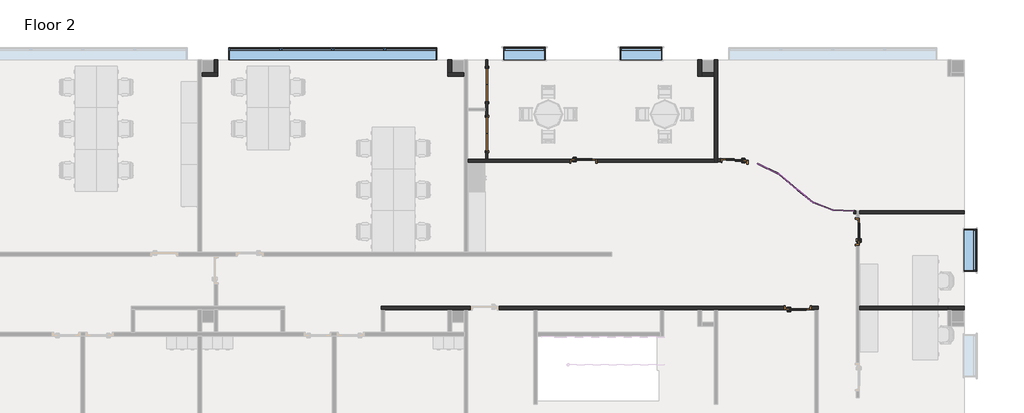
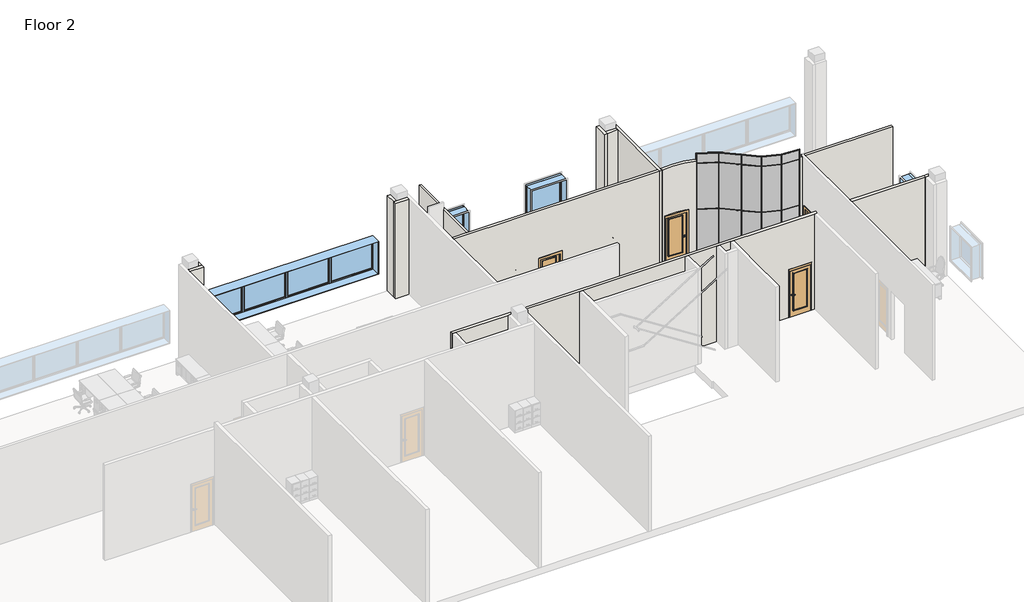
# One storey, part 4 of 6: 41 members, 15 plates, 15 walls, 6 doors, 4 windows.
"""IFC4 building model written with IfcOpenShell, lengths in millimetres."""

from ifc_helpers import new_model, si_unit, point, frame, frame_2d, origin, place, context, project, spatial, polyline, circle_curve, trimmed, segment, composite_curve, outline, extrude, faceted_brep, transform, mapped, element, save
from ifc_brep_helpers import plane_surface, cylinder_surface, revolved_surface, advanced_brep
from components import door_f69827bf, door_4cfbdd5f, door_b5f71497, door_dac99271, member_834e91f0, member_a9d6c361, member_b6f680d5, member_ea1833a9, member_997af995, member_99ddd2ca, member_efb85692, member_f42e476a, member_c703cf53, member_8995069b, member_6a737cc0, member_4057df82, member_b5c0ee63, member_2ca0dabc, member_3a403b9d, member_f4e4bb89, system_panel_glazed_970fcf6f, system_panel_glazed_1b99a4e4, system_panel_glazed_e012e687, system_panel_glazed_c5ee2139, system_panel_glazed_4739128b, system_panel_glazed_f263d929, system_panel_glazed_9a7f91f8, system_panel_glazed_b32ab771, system_panel_glazed_0122b756, window_casement_multi_sash_horizontal_25_x_5ft_0e5d08e3, window_45f0c9e0

model = new_model("IFC4")

# Units and contexts
model_context = context("Model", 3, world=origin())
ifc_project = project(units=[si_unit("LENGTHUNIT", "METRE", prefix="MILLI")], contexts=[model_context])

# Site, building, storey
site = spatial("IfcSite", under=ifc_project)
building = spatial("IfcBuilding", under=site)
storey = spatial("IfcBuildingStorey", under=building, Name="Floor 2", Elevation=5486.4)

# Doors
placement = place(None, origin())
door_shape = door_f69827bf(model_context)
element("IfcDoor", 1, ObjectType="Door-Double-Flush_Panel : 48\" x 84\"", at=placement, inside=storey, context=model_context, shape_type="MappedRepresentation", body=[
    mapped(door_shape, transform((44045.2192024, 56452.299389, 5486.4), x_axis=(0.0, -1.0, 0.0), y_axis=(1.0, 0.0, 0.0), z_axis=(0.0, 0.0, 1.0))),
])
element("IfcDoor", 2, ObjectType="Door-Double-Flush_Panel : 48\" x 84\"", at=placement, inside=storey, context=model_context, shape_type="MappedRepresentation", body=[
    mapped(door_shape, transform((44045.2192024, 54660.011889, 5486.4), x_axis=(0.0, -1.0, 0.0), y_axis=(1.0, 0.0, 0.0), z_axis=(0.0, 0.0, 1.0))),
])
door_2_shape = door_4cfbdd5f(model_context)
element("IfcDoor", 3, ObjectType="Door-Passage-Single-Full_Lite : 36\" x 84\"", at=placement, inside=storey, context=model_context, shape_type="MappedRepresentation", body=[
    mapped(door_2_shape, transform((55424.4192024, 48297.311889, 5486.4), x_axis=(1.0, 0.0, 0.0), y_axis=(0.0, 1.0, 0.0), z_axis=(0.0, 0.0, 1.0))),
])
door_3_shape = door_b5f71497(model_context)
element("IfcDoor", 4, ObjectType="Door-Passage-Single-Full_Lite : 36\" x 84\"", at=placement, inside=storey, context=model_context, shape_type="MappedRepresentation", body=[
    mapped(door_3_shape, transform((53107.2341239, 53660.5521638, 5486.4), x_axis=(-0.9977672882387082, 0.06678651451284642, 0.0), y_axis=(-0.06678651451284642, -0.9977672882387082, 0.0), z_axis=(0.0, 0.0, 1.0))),
])
element("IfcDoor", 5, ObjectType="Door-Passage-Single-Full_Lite : 36\" x 84\"", at=placement, inside=storey, context=model_context, shape_type="MappedRepresentation", body=[
    mapped(door_3_shape, transform((57608.8192024, 51084.961889, 5486.4), x_axis=(0.0, 1.0, 0.0), y_axis=(-1.0, 0.0, 0.0), z_axis=(0.0, 0.0, 1.0))),
])
door_4_shape = door_dac99271(model_context)
element("IfcDoor", 6, ObjectType="Door-Passage-Single-Full_Lite : 36\" x 84\"", at=placement, inside=storey, context=model_context, shape_type="MappedRepresentation", body=[
    mapped(door_4_shape, transform((47582.1692024, 53675.761889, 5486.4), x_axis=(1.0, 0.0, 0.0), y_axis=(0.0, 1.0, 0.0), z_axis=(0.0, 0.0, 1.0))),
])

# Members
member_shape = member_834e91f0(model_context)
element("IfcMember", 7, ObjectType="Rectangular Mullion1 : 1\" Square", at=placement, inside=storey, context=model_context, shape_type="MappedRepresentation", body=[
    mapped(member_shape, transform((55370.0845568, 52611.7453813, 10210.8), x_axis=(0.0, 0.0, 1.0), y_axis=(-0.6484934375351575, -0.7612202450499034, 0.0), z_axis=(0.7612202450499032, -0.6484934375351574, 0.0))),
])
member_2_shape = member_a9d6c361(model_context)
element("IfcMember", 8, ObjectType="Rectangular Mullion1 : 1\" Square", at=placement, inside=storey, context=model_context, shape_type="MappedRepresentation", body=[
    mapped(member_2_shape, transform((54710.7323367, 53173.4561221, 10210.8), x_axis=(0.0, 0.0, 1.0), y_axis=(-0.43160178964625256, -0.9020642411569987, 0.0), z_axis=(0.9020642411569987, -0.43160178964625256, 0.0))),
])
element("IfcMember", 9, ObjectType="Rectangular Mullion1 : 1\" Square", at=placement, inside=storey, context=model_context, shape_type="MappedRepresentation", body=[
    mapped(member_shape, transform((53929.3841475, 53547.3000917, 5486.4), x_axis=(0.0, 0.0, -1.0), y_axis=(-0.43160178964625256, -0.9020642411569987, 0.0), z_axis=(-0.9020642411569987, 0.43160178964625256, 0.0))),
])
element("IfcMember", 10, ObjectType="Rectangular Mullion1 : 1\" Square", at=placement, inside=storey, context=model_context, shape_type="MappedRepresentation", body=[
    mapped(member_2_shape, transform((54710.7323367, 53173.4561221, 5486.4), x_axis=(0.0, 0.0, -1.0), y_axis=(-0.6484934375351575, -0.7612202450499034, 0.0), z_axis=(-0.7612202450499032, 0.6484934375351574, 0.0))),
])
member_3_shape = member_b6f680d5(model_context)
element("IfcMember", 11, ObjectType="Rectangular Mullion1 : 1\" Square", at=placement, inside=storey, context=model_context, shape_type="MappedRepresentation", body=[
    mapped(member_3_shape, transform((54710.7323367, 53173.4561221, 7620.0), x_axis=(0.0, 0.0, 1.0), y_axis=(-0.43160178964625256, -0.9020642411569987, 0.0), z_axis=(0.9020642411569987, -0.43160178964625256, 0.0))),
])
member_4_shape = member_ea1833a9(model_context)
element("IfcMember", 12, ObjectType="Rectangular Mullion1 : 1\" Square", at=placement, inside=storey, context=model_context, shape_type="MappedRepresentation", body=[
    mapped(member_4_shape, transform((55350.7495626, 52628.2171146, 7620.0), x_axis=(0.0, 0.0, 1.0), y_axis=(-0.6484934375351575, -0.7612202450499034, 0.0), z_axis=(0.7612202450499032, -0.6484934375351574, 0.0))),
])
member_5_shape = member_997af995(model_context)
element("IfcMember", 13, ObjectType="Rectangular Mullion1 : 1\" Square", at=placement, inside=storey, context=model_context, shape_type="MappedRepresentation", body=[
    mapped(member_5_shape, transform((54710.7323367, 53173.4561221, 5511.8), x_axis=(0.8386830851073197, -0.5446197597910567, 0.0), y_axis=(-0.5446197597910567, -0.8386830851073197, 0.0), z_axis=(0.0, 0.0, -1.0))),
])
element("IfcMember", 14, ObjectType="Rectangular Mullion1 : 1\" Square", at=placement, inside=storey, context=model_context, shape_type="MappedRepresentation", body=[
    mapped(member_5_shape, transform((55973.7447178, 52125.501763, 5511.8), x_axis=(0.867376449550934, -0.4976525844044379, 0.0), y_axis=(-0.4976525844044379, -0.867376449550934, 0.0), z_axis=(0.0, 0.0, -1.0))),
])
element("IfcMember", 15, ObjectType="Rectangular Mullion1 : 1\" Square", at=placement, inside=storey, context=model_context, shape_type="MappedRepresentation", body=[
    mapped(member_5_shape, transform((56698.1784145, 51849.7586549, 5511.8), x_axis=(0.9787526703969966, -0.20504441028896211, 0.0), y_axis=(-0.20504441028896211, -0.9787526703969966, 0.0), z_axis=(0.0, 0.0, -1.0))),
])
member_6_shape = member_99ddd2ca(model_context)
element("IfcMember", 16, ObjectType="Rectangular Mullion1 : 1\" Square", at=placement, inside=storey, context=model_context, shape_type="MappedRepresentation", body=[
    mapped(member_6_shape, transform((54710.7323367, 53173.4561221, 7632.7), x_axis=(0.8386830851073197, -0.5446197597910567, 0.0), y_axis=(-0.5446197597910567, -0.8386830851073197, 0.0), z_axis=(0.0, 0.0, -1.0))),
])
element("IfcMember", 17, ObjectType="Rectangular Mullion1 : 1\" Square", at=placement, inside=storey, context=model_context, shape_type="MappedRepresentation", body=[
    mapped(member_6_shape, transform((55973.7447178, 52125.501763, 7632.7), x_axis=(0.867376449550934, -0.4976525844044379, 0.0), y_axis=(-0.4976525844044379, -0.867376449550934, 0.0), z_axis=(0.0, 0.0, -1.0))),
])
element("IfcMember", 18, ObjectType="Rectangular Mullion1 : 1\" Square", at=placement, inside=storey, context=model_context, shape_type="MappedRepresentation", body=[
    mapped(member_6_shape, transform((56698.1784145, 51849.7586549, 7632.7), x_axis=(0.9787526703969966, -0.20504441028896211, 0.0), y_axis=(-0.20504441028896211, -0.9787526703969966, 0.0), z_axis=(0.0, 0.0, -1.0))),
])
member_7_shape = member_efb85692(model_context)
element("IfcMember", 19, ObjectType="Rectangular Mullion1 : 1\" Square", at=placement, inside=storey, context=model_context, shape_type="MappedRepresentation", body=[
    mapped(member_7_shape, transform((54710.7323367, 53173.4561221, 9766.3), x_axis=(0.8386830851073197, -0.5446197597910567, 0.0), y_axis=(-0.5446197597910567, -0.8386830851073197, 0.0), z_axis=(0.0, 0.0, -1.0))),
])
element("IfcMember", 20, ObjectType="Rectangular Mullion1 : 1\" Square", at=placement, inside=storey, context=model_context, shape_type="MappedRepresentation", body=[
    mapped(member_7_shape, transform((55973.7447178, 52125.501763, 9766.3), x_axis=(0.867376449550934, -0.4976525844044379, 0.0), y_axis=(-0.4976525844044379, -0.867376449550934, 0.0), z_axis=(0.0, 0.0, -1.0))),
])
element("IfcMember", 21, ObjectType="Rectangular Mullion1 : 1\" Square", at=placement, inside=storey, context=model_context, shape_type="MappedRepresentation", body=[
    mapped(member_7_shape, transform((56698.1784145, 51849.7586549, 9766.3), x_axis=(0.9787526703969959, -0.20504441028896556, 0.0), y_axis=(-0.20504441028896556, -0.9787526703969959, 0.0), z_axis=(0.0, 0.0, -1.0))),
])
element("IfcMember", 22, ObjectType="Rectangular Mullion1 : 1\" Square", at=placement, inside=storey, context=model_context, shape_type="MappedRepresentation", body=[
    mapped(member_3_shape, transform((54710.7323367, 53173.4561221, 9753.6), x_axis=(0.0, 0.0, 1.0), y_axis=(-0.43160178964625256, -0.9020642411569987, 0.0), z_axis=(0.9020642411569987, -0.43160178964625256, 0.0))),
])
element("IfcMember", 23, ObjectType="Rectangular Mullion1 : 1\" Square", at=placement, inside=storey, context=model_context, shape_type="MappedRepresentation", body=[
    mapped(member_4_shape, transform((55350.7495626, 52628.2171146, 9753.6), x_axis=(0.0, 0.0, 1.0), y_axis=(-0.6484934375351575, -0.7612202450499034, 0.0), z_axis=(0.7612202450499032, -0.6484934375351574, 0.0))),
])
member_8_shape = member_f42e476a(model_context)
element("IfcMember", 24, ObjectType="Rectangular Mullion1 : 1\" Square", at=placement, inside=storey, context=model_context, shape_type="MappedRepresentation", body=[
    mapped(member_8_shape, transform((57472.373613, 51811.5455547, 10210.8), x_axis=(0.0, 0.0, 1.0), y_axis=(-0.049298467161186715, -0.9987840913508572, 0.0), z_axis=(0.9987840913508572, -0.049298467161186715, 0.0))),
])
member_9_shape = member_c703cf53(model_context)
element("IfcMember", 25, ObjectType="Rectangular Mullion1 : 1\" Square", at=placement, inside=storey, context=model_context, shape_type="MappedRepresentation", body=[
    mapped(member_9_shape, transform((55973.7447178, 52125.501763, 10210.8), x_axis=(0.0, 0.0, 1.0), y_axis=(-0.6272996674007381, -0.7787779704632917, 0.0), z_axis=(0.7787779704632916, -0.627299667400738, 0.0))),
])
member_10_shape = member_8995069b(model_context)
element("IfcMember", 26, ObjectType="Rectangular Mullion1 : 1\" Square", at=placement, inside=storey, context=model_context, shape_type="MappedRepresentation", body=[
    mapped(member_10_shape, transform((56698.1784145, 51849.7586549, 10210.8), x_axis=(0.0, 0.0, 1.0), y_axis=(-0.3557343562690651, -0.9345871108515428, 0.0), z_axis=(0.9345871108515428, -0.3557343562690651, 0.0))),
])
element("IfcMember", 27, ObjectType="Rectangular Mullion1 : 1\" Square", at=placement, inside=storey, context=model_context, shape_type="MappedRepresentation", body=[
    mapped(member_8_shape, transform((55370.0845568, 52611.7453813, 5486.4), x_axis=(0.0, 0.0, -1.0), y_axis=(-0.6272996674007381, -0.7787779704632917, 0.0), z_axis=(-0.7787779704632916, 0.627299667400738, 0.0))),
])
element("IfcMember", 28, ObjectType="Rectangular Mullion1 : 1\" Square", at=placement, inside=storey, context=model_context, shape_type="MappedRepresentation", body=[
    mapped(member_10_shape, transform((55973.7447178, 52125.501763, 5486.4), x_axis=(0.0, 0.0, -1.0), y_axis=(-0.3557343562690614, -0.9345871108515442, 0.0), z_axis=(-0.9345871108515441, 0.35573435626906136, 0.0))),
])
element("IfcMember", 29, ObjectType="Rectangular Mullion1 : 1\" Square", at=placement, inside=storey, context=model_context, shape_type="MappedRepresentation", body=[
    mapped(member_9_shape, transform((56698.1784145, 51849.7586549, 5486.4), x_axis=(0.0, 0.0, -1.0), y_axis=(-0.049298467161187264, -0.9987840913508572, 0.0), z_axis=(-0.9987840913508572, 0.049298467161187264, 0.0))),
])
member_11_shape = member_6a737cc0(model_context)
element("IfcMember", 30, ObjectType="Rectangular Mullion1 : 1\" Square", at=placement, inside=storey, context=model_context, shape_type="MappedRepresentation", body=[
    mapped(member_11_shape, transform((55973.7447178, 52125.501763, 7620.0), x_axis=(0.0, 0.0, 1.0), y_axis=(-0.6272996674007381, -0.7787779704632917, 0.0), z_axis=(0.7787779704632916, -0.627299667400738, 0.0))),
])
member_12_shape = member_4057df82(model_context)
element("IfcMember", 31, ObjectType="Rectangular Mullion1 : 1\" Square", at=placement, inside=storey, context=model_context, shape_type="MappedRepresentation", body=[
    mapped(member_12_shape, transform((56698.1784145, 51849.7586549, 7620.0), x_axis=(0.0, 0.0, 1.0), y_axis=(-0.3557343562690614, -0.9345871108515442, 0.0), z_axis=(0.9345871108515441, -0.35573435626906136, 0.0))),
])
element("IfcMember", 32, ObjectType="Rectangular Mullion1 : 1\" Square", at=placement, inside=storey, context=model_context, shape_type="MappedRepresentation", body=[
    mapped(member_12_shape, transform((56698.1784145, 51849.7586549, 9753.6), x_axis=(0.0, 0.0, 1.0), y_axis=(-0.3557343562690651, -0.9345871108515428, 0.0), z_axis=(0.9345871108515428, -0.3557343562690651, 0.0))),
])
member_13_shape = member_b5c0ee63(model_context)
element("IfcMember", 33, ObjectType="Rectangular Mullion1 : 1\" Square", at=placement, inside=storey, context=model_context, shape_type="MappedRepresentation", body=[
    mapped(member_13_shape, transform((57447.0044971, 51812.7977357, 7620.0), x_axis=(0.0, 0.0, 1.0), y_axis=(-0.049298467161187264, -0.9987840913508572, 0.0), z_axis=(0.9987840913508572, -0.049298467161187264, 0.0))),
])
element("IfcMember", 34, ObjectType="Rectangular Mullion1 : 1\" Square", at=placement, inside=storey, context=model_context, shape_type="MappedRepresentation", body=[
    mapped(member_11_shape, transform((55973.7447178, 52125.501763, 9753.6), x_axis=(0.0, 0.0, 1.0), y_axis=(-0.6272996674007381, -0.7787779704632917, 0.0), z_axis=(0.7787779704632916, -0.627299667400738, 0.0))),
])
element("IfcMember", 35, ObjectType="Rectangular Mullion1 : 1\" Square", at=placement, inside=storey, context=model_context, shape_type="MappedRepresentation", body=[
    mapped(member_13_shape, transform((57447.0044971, 51812.7977357, 9753.6), x_axis=(0.0, 0.0, 1.0), y_axis=(-0.049298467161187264, -0.9987840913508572, 0.0), z_axis=(0.9987840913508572, -0.049298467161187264, 0.0))),
])
member_14_shape = member_2ca0dabc(model_context)
element("IfcMember", 36, ObjectType="Rectangular Mullion1 : 1\" Square", at=placement, inside=storey, context=model_context, shape_type="MappedRepresentation", body=[
    mapped(member_14_shape, transform((55370.0845568, 52611.7453813, 5511.8), x_axis=(0.7612202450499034, -0.6484934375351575, 0.0), y_axis=(-0.6484934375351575, -0.7612202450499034, 0.0), z_axis=(0.0, 0.0, -1.0))),
])
element("IfcMember", 37, ObjectType="Rectangular Mullion1 : 1\" Square", at=placement, inside=storey, context=model_context, shape_type="MappedRepresentation", body=[
    mapped(member_14_shape, transform((57472.373613, 51811.5455547, 5511.8), x_axis=(0.9987840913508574, -0.0492984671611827, 0.0), y_axis=(-0.0492984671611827, -0.9987840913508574, 0.0), z_axis=(0.0, 0.0, -1.0))),
])
member_15_shape = member_3a403b9d(model_context)
element("IfcMember", 38, ObjectType="Rectangular Mullion1 : 1\" Square", at=placement, inside=storey, context=model_context, shape_type="MappedRepresentation", body=[
    mapped(member_15_shape, transform((55370.0845568, 52611.7453813, 7620.0), x_axis=(0.7612202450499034, -0.6484934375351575, 0.0), y_axis=(-0.6484934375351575, -0.7612202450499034, 0.0), z_axis=(0.0, 0.0, -1.0))),
])
element("IfcMember", 39, ObjectType="Rectangular Mullion1 : 1\" Square", at=placement, inside=storey, context=model_context, shape_type="MappedRepresentation", body=[
    mapped(member_15_shape, transform((57472.373613, 51811.5455547, 7620.0), x_axis=(0.9987840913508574, -0.0492984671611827, 0.0), y_axis=(-0.0492984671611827, -0.9987840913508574, 0.0), z_axis=(0.0, 0.0, -1.0))),
])
member_16_shape = member_f4e4bb89(model_context)
element("IfcMember", 40, ObjectType="Rectangular Mullion1 : 1\" Square", at=placement, inside=storey, context=model_context, shape_type="MappedRepresentation", body=[
    mapped(member_16_shape, transform((53929.3841475, 53547.3000917, 10185.4), x_axis=(-0.9020642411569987, 0.43160178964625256, 0.0), y_axis=(-0.43160178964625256, -0.9020642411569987, 0.0), z_axis=(0.0, 0.0, 1.0))),
])
element("IfcMember", 41, ObjectType="Rectangular Mullion1 : 1\" Square", at=placement, inside=storey, context=model_context, shape_type="MappedRepresentation", body=[
    mapped(member_16_shape, transform((55370.0845568, 52611.7453813, 10185.4), x_axis=(-0.7787779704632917, 0.6272996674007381, 0.0), y_axis=(-0.6272996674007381, -0.7787779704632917, 0.0), z_axis=(0.0, 0.0, 1.0))),
])
element("IfcMember", 42, ObjectType="Rectangular Mullion1 : 1\" Square", at=placement, inside=storey, context=model_context, shape_type="MappedRepresentation", body=[
    mapped(member_14_shape, transform((53929.3841475, 53547.3000917, 7620.0), x_axis=(-0.9020642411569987, 0.43160178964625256, 0.0), y_axis=(-0.43160178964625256, -0.9020642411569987, 0.0), z_axis=(0.0, 0.0, 1.0))),
])
element("IfcMember", 43, ObjectType="Rectangular Mullion1 : 1\" Square", at=placement, inside=storey, context=model_context, shape_type="MappedRepresentation", body=[
    mapped(member_14_shape, transform((55370.0845568, 52611.7453813, 7620.0), x_axis=(-0.7787779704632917, 0.6272996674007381, 0.0), y_axis=(-0.6272996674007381, -0.7787779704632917, 0.0), z_axis=(0.0, 0.0, 1.0))),
])
element("IfcMember", 44, ObjectType="Rectangular Mullion1 : 1\" Square", at=placement, inside=storey, context=model_context, shape_type="MappedRepresentation", body=[
    mapped(member_16_shape, transform((55370.0845568, 52611.7453813, 9753.6), x_axis=(0.7612202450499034, -0.6484934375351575, 0.0), y_axis=(-0.6484934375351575, -0.7612202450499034, 0.0), z_axis=(0.0, 0.0, -1.0))),
])
element("IfcMember", 45, ObjectType="Rectangular Mullion1 : 1\" Square", at=placement, inside=storey, context=model_context, shape_type="MappedRepresentation", body=[
    mapped(member_16_shape, transform((57472.373613, 51811.5455547, 9753.6), x_axis=(0.9987840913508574, -0.049298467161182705, 0.0), y_axis=(-0.049298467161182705, -0.9987840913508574, 0.0), z_axis=(0.0, 0.0, -1.0))),
])
element("IfcMember", 46, ObjectType="Rectangular Mullion1 : 1\" Square", at=placement, inside=storey, context=model_context, shape_type="MappedRepresentation", body=[
    mapped(member_15_shape, transform((53929.3841475, 53547.3000917, 9753.6), x_axis=(-0.9020642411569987, 0.43160178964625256, 0.0), y_axis=(-0.43160178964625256, -0.9020642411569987, 0.0), z_axis=(0.0, 0.0, 1.0))),
])
element("IfcMember", 47, ObjectType="Rectangular Mullion1 : 1\" Square", at=placement, inside=storey, context=model_context, shape_type="MappedRepresentation", body=[
    mapped(member_15_shape, transform((55370.0845568, 52611.7453813, 9753.6), x_axis=(-0.7787779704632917, 0.6272996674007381, 0.0), y_axis=(-0.6272996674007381, -0.7787779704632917, 0.0), z_axis=(0.0, 0.0, 1.0))),
])

# Plates
system_panel_glazed_shape = system_panel_glazed_970fcf6f(model_context)
element("IfcPlate", 48, ObjectType="System Panel : Glazed", at=placement, inside=storey, context=model_context, shape_type="MappedRepresentation", body=[
    mapped(system_panel_glazed_shape, transform((54325.7863501, 53357.6374355, 5511.8), x_axis=(0.9020642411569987, -0.43160178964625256, 0.0), y_axis=(0.43160178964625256, 0.9020642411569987, 0.0), z_axis=(0.0, 0.0, 1.0))),
])
element("IfcPlate", 49, ObjectType="System Panel : Glazed", at=placement, inside=storey, context=model_context, shape_type="MappedRepresentation", body=[
    mapped(system_panel_glazed_shape, transform((55035.5746982, 52896.718685, 5511.8), x_axis=(0.7612202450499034, -0.6484934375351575, 0.0), y_axis=(0.6484934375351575, 0.7612202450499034, 0.0), z_axis=(0.0, 0.0, 1.0))),
])
system_panel_glazed_2_shape = system_panel_glazed_1b99a4e4(model_context)
element("IfcPlate", 50, ObjectType="System Panel : Glazed", at=placement, inside=storey, context=model_context, shape_type="MappedRepresentation", body=[
    mapped(system_panel_glazed_2_shape, transform((54325.7863501, 53357.6374355, 7632.7), x_axis=(0.9020642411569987, -0.43160178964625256, 0.0), y_axis=(0.43160178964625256, 0.9020642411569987, 0.0), z_axis=(0.0, 0.0, 1.0))),
])
element("IfcPlate", 51, ObjectType="System Panel : Glazed", at=placement, inside=storey, context=model_context, shape_type="MappedRepresentation", body=[
    mapped(system_panel_glazed_2_shape, transform((55035.5746982, 52896.718685, 7632.7), x_axis=(0.7612202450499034, -0.6484934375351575, 0.0), y_axis=(0.6484934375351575, 0.7612202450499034, 0.0), z_axis=(0.0, 0.0, 1.0))),
])
system_panel_glazed_3_shape = system_panel_glazed_e012e687(model_context)
element("IfcPlate", 52, ObjectType="System Panel : Glazed", at=placement, inside=storey, context=model_context, shape_type="MappedRepresentation", body=[
    mapped(system_panel_glazed_3_shape, transform((55676.8598774, 52364.6402193, 5511.8), x_axis=(0.7787779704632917, -0.6272996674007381, 0.0), y_axis=(0.6272996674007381, 0.7787779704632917, 0.0), z_axis=(0.0, 0.0, 1.0))),
])
element("IfcPlate", 53, ObjectType="System Panel : Glazed", at=placement, inside=storey, context=model_context, shape_type="MappedRepresentation", body=[
    mapped(system_panel_glazed_3_shape, transform((57078.9337348, 51830.96515, 5511.8), x_axis=(0.9987840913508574, -0.0492984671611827, 0.0), y_axis=(0.0492984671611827, 0.9987840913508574, 0.0), z_axis=(0.0, 0.0, 1.0))),
])
system_panel_glazed_4_shape = system_panel_glazed_c5ee2139(model_context)
element("IfcPlate", 54, ObjectType="System Panel : Glazed", at=placement, inside=storey, context=model_context, shape_type="MappedRepresentation", body=[
    mapped(system_panel_glazed_4_shape, transform((56335.9615662, 51987.6302089, 5511.8), x_axis=(0.9345871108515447, -0.35573435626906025, 0.0), y_axis=(0.35573435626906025, 0.9345871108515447, 0.0), z_axis=(0.0, 0.0, 1.0))),
])
system_panel_glazed_5_shape = system_panel_glazed_4739128b(model_context)
element("IfcPlate", 55, ObjectType="System Panel : Glazed", at=placement, inside=storey, context=model_context, shape_type="MappedRepresentation", body=[
    mapped(system_panel_glazed_5_shape, transform((55676.8598774, 52364.6402193, 7632.7), x_axis=(0.7787779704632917, -0.6272996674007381, 0.0), y_axis=(0.6272996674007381, 0.7787779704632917, 0.0), z_axis=(0.0, 0.0, 1.0))),
])
element("IfcPlate", 56, ObjectType="System Panel : Glazed", at=placement, inside=storey, context=model_context, shape_type="MappedRepresentation", body=[
    mapped(system_panel_glazed_5_shape, transform((57078.9337348, 51830.96515, 7632.7), x_axis=(0.9987840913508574, -0.0492984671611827, 0.0), y_axis=(0.0492984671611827, 0.9987840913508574, 0.0), z_axis=(0.0, 0.0, 1.0))),
])
system_panel_glazed_6_shape = system_panel_glazed_f263d929(model_context)
element("IfcPlate", 57, ObjectType="System Panel : Glazed", at=placement, inside=storey, context=model_context, shape_type="MappedRepresentation", body=[
    mapped(system_panel_glazed_6_shape, transform((56335.9615662, 51987.6302089, 7632.7), x_axis=(0.9345871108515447, -0.35573435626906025, 0.0), y_axis=(0.35573435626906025, 0.9345871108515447, 0.0), z_axis=(0.0, 0.0, 1.0))),
])
system_panel_glazed_7_shape = system_panel_glazed_9a7f91f8(model_context)
element("IfcPlate", 58, ObjectType="System Panel : Glazed", at=placement, inside=storey, context=model_context, shape_type="MappedRepresentation", body=[
    mapped(system_panel_glazed_7_shape, transform((54325.7863501, 53357.6374355, 9766.3), x_axis=(0.9020642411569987, -0.43160178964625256, 0.0), y_axis=(0.43160178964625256, 0.9020642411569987, 0.0), z_axis=(0.0, 0.0, 1.0))),
])
element("IfcPlate", 59, ObjectType="System Panel : Glazed", at=placement, inside=storey, context=model_context, shape_type="MappedRepresentation", body=[
    mapped(system_panel_glazed_7_shape, transform((55035.5746982, 52896.718685, 9766.3), x_axis=(0.7612202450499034, -0.6484934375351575, 0.0), y_axis=(0.6484934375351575, 0.7612202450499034, 0.0), z_axis=(0.0, 0.0, 1.0))),
])
system_panel_glazed_8_shape = system_panel_glazed_b32ab771(model_context)
element("IfcPlate", 60, ObjectType="System Panel : Glazed", at=placement, inside=storey, context=model_context, shape_type="MappedRepresentation", body=[
    mapped(system_panel_glazed_8_shape, transform((55676.8598774, 52364.6402193, 9766.3), x_axis=(0.7787779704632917, -0.6272996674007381, 0.0), y_axis=(0.6272996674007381, 0.7787779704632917, 0.0), z_axis=(0.0, 0.0, 1.0))),
])
element("IfcPlate", 61, ObjectType="System Panel : Glazed", at=placement, inside=storey, context=model_context, shape_type="MappedRepresentation", body=[
    mapped(system_panel_glazed_8_shape, transform((57078.9337348, 51830.96515, 9766.3), x_axis=(0.9987840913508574, -0.049298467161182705, 0.0), y_axis=(0.049298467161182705, 0.9987840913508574, 0.0), z_axis=(0.0, 0.0, 1.0))),
])
system_panel_glazed_9_shape = system_panel_glazed_0122b756(model_context)
element("IfcPlate", 62, ObjectType="System Panel : Glazed", at=placement, inside=storey, context=model_context, shape_type="MappedRepresentation", body=[
    mapped(system_panel_glazed_9_shape, transform((56335.9615662, 51987.6302089, 9766.3), x_axis=(0.9345871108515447, -0.35573435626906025, 0.0), y_axis=(0.35573435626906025, 0.9345871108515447, 0.0), z_axis=(0.0, 0.0, 1.0))),
])

# Walls
element("IfcWall", 63, ObjectType="Interior - 3 1/8\" Partition (1-hr)", at=placement, inside=storey, context=model_context, shape_type="Brep", body=[
    faceted_brep([(44084.9067024, 53744.024389, 9906.0), (44084.9067024, 53744.024389, 5486.4), (44084.9067024, 54050.411889, 5486.4), (44084.9067024, 54050.411889, 7620.0), (44084.9067024, 55269.611889, 7620.0), (44084.9067024, 55269.611889, 5486.4), (44084.9067024, 55842.699389, 5486.4), (44084.9067024, 55842.699389, 7620.0), (44084.9067024, 57061.899389, 7620.0), (44084.9067024, 57061.899389, 5486.4), (44084.9067024, 57366.699389, 5486.4), (44084.9067024, 57366.699389, 9906.0), (44005.5317024, 53744.024389, 5486.4), (44005.5317024, 53744.024389, 9906.0), (44005.5317024, 57366.699389, 9906.0), (44005.5317024, 57366.699389, 5486.4), (44005.5317024, 57061.899389, 5486.4), (44005.5317024, 57061.899389, 7620.0), (44005.5317024, 55842.699389, 7620.0), (44005.5317024, 55842.699389, 5486.4), (44005.5317024, 55595.843139, 5486.4), (44005.5317024, 55516.468139, 5486.4), (44005.5317024, 55269.611889, 5486.4), (44005.5317024, 55269.611889, 7620.0), (44005.5317024, 54050.411889, 7620.0), (44005.5317024, 54050.411889, 5486.4)], [[[0, 1, 2, 3, 4, 5, 6, 7, 8, 9, 10, 11]], [[12, 13, 14, 15, 16, 17, 18, 19, 20, 21, 22, 23, 24, 25]], [[1, 12, 25, 2]], [[15, 10, 9, 16]], [[19, 6, 5, 22, 21, 20]], [[1, 0, 13, 12]], [[11, 10, 15, 14]], [[0, 11, 14, 13]], [[18, 7, 6, 19]], [[7, 18, 17, 8]], [[8, 17, 16, 9]], [[24, 3, 2, 25]], [[3, 24, 23, 4]], [[4, 23, 22, 5]]]),
])
element("IfcWall", 64, ObjectType="Interior - 4 7/8\" Partition (1-hr)", at=placement, inside=storey, context=model_context, shape_type="Brep", body=[
    faceted_brep([(52489.1317024, 53620.199389, 5486.4), (52489.1317024, 53627.7357637, 5486.4), (52489.1317024, 53752.4422892, 5486.4), (52489.1317024, 57366.699389, 5486.4), (52489.1317024, 57366.699389, 9906.0), (52489.1317024, 53752.4422892, 9906.0), (52489.1317024, 53627.7357637, 9906.0), (52489.1317024, 53620.199389, 9906.0), (52365.3067024, 53620.199389, 5486.4), (52365.3067024, 53620.199389, 9906.0), (52365.3067024, 53744.024389, 9906.0), (52365.3067024, 56768.211889, 9906.0), (52365.3067024, 56907.911889, 9906.0), (52365.3067024, 57366.699389, 9906.0), (52365.3067024, 57366.699389, 5486.4), (52365.3067024, 56907.911889, 5486.4), (52365.3067024, 56768.211889, 5486.4), (52365.3067024, 53744.024389, 5486.4)], [[[0, 1, 2, 3, 4, 5, 6, 7]], [[8, 9, 10, 11, 12, 13, 14, 15, 16, 17]], [[3, 2, 1, 0, 8, 17, 16, 15, 14]], [[0, 7, 9, 8]], [[4, 3, 14, 13]], [[7, 6, 5, 4, 13, 12, 11, 10, 9]]]),
])
element("IfcWall", 65, ObjectType="Interior - 4 7/8\" Partition (1-hr)", at=placement, inside=storey, context=model_context, shape_type="Brep", body=[
    faceted_brep([(48090.1692024, 53620.199389, 7721.6), (48090.1692024, 53620.199389, 5486.4), (52365.3067024, 53620.199389, 5486.4), (52365.3067024, 53620.199389, 9906.0), (43353.0692024, 53620.199389, 9906.0), (43353.0692024, 53620.199389, 5486.4), (47074.1692024, 53620.199389, 5486.4), (47074.1692024, 53620.199389, 7721.6), (52365.3067024, 53744.024389, 5486.4), (48090.1692024, 53744.024389, 5486.4), (48090.1692024, 53744.024389, 7721.6), (47074.1692024, 53744.024389, 7721.6), (47074.1692024, 53744.024389, 5486.4), (44084.9067024, 53744.024389, 5486.4), (44005.5317024, 53744.024389, 5486.4), (43353.0692024, 53744.024389, 5486.4), (43353.0692024, 53744.024389, 9906.0), (44005.5317024, 53744.024389, 9906.0), (44084.9067024, 53744.024389, 9906.0), (52365.3067024, 53744.024389, 9906.0)], [[[0, 1, 2, 3, 4, 5, 6, 7]], [[8, 9, 10, 11, 12, 13, 14, 15, 16, 17, 18, 19]], [[2, 1, 9, 8]], [[6, 5, 15, 14, 13, 12]], [[8, 19, 3, 2]], [[16, 15, 5, 4]], [[19, 18, 17, 16, 4, 3]], [[10, 9, 1, 0]], [[11, 10, 0, 7]], [[12, 11, 7, 6]]]),
])
element("IfcWall", 66, ObjectType="Interior - 4 7/8\" Partition (1-hr)", at=placement, inside=storey, context=model_context, shape_type="SweptSolid", body=[
    extrude(outline(polyline([(61502.9567024, 51734.249389), (57677.0817024, 51734.249389), (57677.0817024, 51858.074389), (61502.9567024, 51858.074389), (61502.9567024, 51734.249389)])), frame((0.0, 0.0, 5486.4), z_axis=(0.0, 0.0, 1.0), x_axis=(1.0, 0.0, 0.0)), (0.0, 0.0, 1.0), 4419.6),
])
element("IfcWall", 67, ObjectType="Interior - 4 7/8\" Partition (1-hr)", at=placement, inside=storey, context=model_context, shape_type="SweptSolid", body=[
    extrude(outline(polyline([(57677.0817024, 48359.224389), (60904.4692024, 48359.224389), (60904.4692024, 48235.399389), (57677.0817024, 48235.399389), (57677.0817024, 48359.224389)])), frame((0.0, 0.0, 5486.4), z_axis=(0.0, 0.0, 1.0), x_axis=(1.0, 0.0, 0.0)), (0.0, 0.0, 1.0), 4419.6),
])
element("IfcWall", 68, ObjectType="Interior - 4 7/8\" Partition (1-hr)", at=placement, inside=storey, context=model_context, shape_type="AdvancedBrep", body=[
    advanced_brep(
    [(52489.1317024, 53752.4422892, 5486.4), (52605.0241832, 53764.0363688, 5486.4), (52596.6575157, 53639.0412683, 5486.4), (52489.1317024, 53627.7357637, 5486.4), (53618.755748, 53696.1812701, 5486.4), (53948.6598073, 53606.1355113, 5486.4), (53910.1084878, 53488.4646722, 5486.4), (53610.3890806, 53571.1861695, 5486.4), (52605.0241832, 53764.0363688, 7721.6), (52489.1317024, 53752.4422892, 9906.0), (53948.6598073, 53606.1355113, 9906.0), (53618.755748, 53696.1812701, 7721.6), (52596.6575157, 53639.0412683, 7721.6), (53610.3890806, 53571.1861695, 7721.6), (53910.1084878, 53488.4646722, 9906.0), (52489.1317024, 53627.7357637, 9906.0)],
    [
        (0, 1, circle_curve(frame((52886.6031482, 50364.4021575, 5486.4), z_axis=(0.0, 0.0, -1.0), x_axis=(1.0, 0.0, 0.0)), 3411.2753457)),
        (1, 2),
        (2, 3, circle_curve(frame((52886.6031482, 50364.4021575, 5486.4), z_axis=(0.0, 0.0, 1.0), x_axis=(1.0, 0.0, 0.0)), 3287.4503457)),
        (3, 0),
        (4, 5, circle_curve(frame((52886.6031482, 50364.4021575, 5486.4), z_axis=(0.0, 0.0, -1.0), x_axis=(1.0, 0.0, 0.0)), 3411.2753457)),
        (5, 6),
        (6, 7, circle_curve(frame((52886.6031482, 50364.4021575, 5486.4), z_axis=(0.0, 0.0, 1.0), x_axis=(1.0, 0.0, 0.0)), 3287.4503457)),
        (7, 4),
        (8, 1),
        (0, 9),
        (9, 10, circle_curve(frame((52886.6031482, 50364.4021575, 9906.0), z_axis=(0.0, 0.0, -1.0), x_axis=(1.0, 0.0, 0.0)), 3411.2753457)),
        (10, 5),
        (4, 11),
        (11, 8, circle_curve(frame((52886.6031482, 50364.4021575, 7721.6), z_axis=(0.0, 0.0, 1.0), x_axis=(1.0, 0.0, 0.0)), 3411.2753457)),
        (2, 12),
        (12, 13, circle_curve(frame((52886.6031482, 50364.4021575, 7721.6), z_axis=(0.0, 0.0, -1.0), x_axis=(1.0, 0.0, 0.0)), 3287.4503457)),
        (13, 7),
        (6, 14),
        (14, 15, circle_curve(frame((52886.6031482, 50364.4021575, 9906.0), z_axis=(0.0, 0.0, 1.0), x_axis=(1.0, 0.0, 0.0)), 3287.4503457)),
        (15, 3),
        (10, 14),
        (15, 9),
        (8, 12),
        (11, 13),
    ],
    [
        plane_surface(frame((56297.878494, 50364.4021575, 5486.4), z_axis=(0.0, 0.0, -1.0), x_axis=(0.0, -1.0, 0.0))),
        cylinder_surface(frame((52886.6031482, 50364.4021575, 5486.4), z_axis=(0.0, 0.0, 1.0), x_axis=(1.0, 0.0, 0.0)), 3411.2753457),
        revolved_surface(polyline([(56174.053493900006, 50364.4021575, 5486.4), (56174.053493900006, 50364.4021575, 9906.0)]), (52886.6031482, 50364.4021575, 5486.4), (0.0, 0.0, -1.0)),
        plane_surface(frame((53910.1084878, 53488.4646722, 9906.0), z_axis=(0.9502995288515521, -0.3113371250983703, 0.0), x_axis=(0.0, 0.0, -1.0))),
        plane_surface(frame((52489.1317024, 56501.511889, 5486.4), z_axis=(-1.0, 0.0, 0.0), x_axis=(0.0, 1.0, 0.0))),
        plane_surface(frame((61502.9567024, 57366.699389, 9906.0), z_axis=(0.0, 0.0, 1.0), x_axis=(0.0, -1.0, 0.0))),
        plane_surface(frame((52596.6575157, 53639.0412683, 5486.4), z_axis=(0.9977672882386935, -0.06678651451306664, 0.0), x_axis=(0.06678651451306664, 0.9977672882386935, 0.0))),
        plane_surface(frame((52596.6575157, 53639.0412683, 7721.6), z_axis=(0.0, 0.0, -1.0), x_axis=(0.06678651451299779, 0.9977672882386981, 0.0))),
        plane_surface(frame((53610.3890806, 53571.1861695, 7721.6), z_axis=(-0.9977672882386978, 0.0667865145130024, 0.0), x_axis=(0.0667865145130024, 0.9977672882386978, 0.0))),
    ],
    [
        (0, [[1, 2, 3, 4]]),
        (0, [[5, 6, 7, 8]]),
        (1, [[9, -1, 10, 11, 12, -5, 13, 14]]),
        (2, [[-3, 15, 16, 17, -7, 18, 19, 20]]),
        (3, [[21, -18, -6, -12]]),
        (4, [[22, -10, -4, -20]]),
        (5, [[-11, -22, -19, -21]]),
        (6, [[-15, -2, -9, 23]]),
        (7, [[-16, -23, -14, 24]]),
        (8, [[-17, -24, -13, -8]]),
    ],
),
])
element("IfcWall", 69, ObjectType="Interior - 4 7/8\" Partition (1-hr)", at=placement, inside=storey, context=model_context, shape_type="SweptSolid", body=[
    extrude(outline(composite_curve([segment(polyline([(57618.0176704, 51858.074389), (57553.2567024, 51858.074389), (57553.2567024, 51740.023538)]), True, "CONTINUOUS"), segment(trimmed(circle_curve(frame_2d((58034.3100922, 56357.174244)), 4642.1431479), [point((57553.2567024, 51740.023538))], [point((57464.7777308, 51750.1007808))], False, "CARTESIAN"), True, "CONTINUOUS"), segment(polyline([(57464.7777308, 51750.1007808), (57479.9694951, 51872.9903285)]), True, "CONTINUOUS"), segment(trimmed(circle_curve(frame_2d((58034.3100922, 56357.174244)), 4518.3181479), [point((57479.9694951, 51872.9903285))], [point((57618.0176704, 51858.074389))], True, "CARTESIAN"), True, "CONTINUOUS")], self_intersect=False)), frame((0.0, 0.0, 5486.4), z_axis=(0.0, 0.0, 1.0), x_axis=(1.0, 0.0, 0.0)), (0.0, 0.0, 1.0), 4419.6),
])
element("IfcWall", 70, ObjectType="Interior - 5 1/2\" Partition (1-hr)", at=placement, inside=storey, context=model_context, shape_type="Brep", body=[
    faceted_brep([(43213.3692024, 56907.911889, 5486.4), (42756.1692024, 56907.911889, 5486.4), (42616.4692024, 56907.911889, 5486.4), (42616.4692024, 56907.911889, 9906.0), (42756.1692024, 56907.911889, 9906.0), (43213.3692024, 56907.911889, 9906.0), (43213.3692024, 56768.211889, 5486.4), (43213.3692024, 56768.211889, 9906.0), (42616.4692024, 56768.211889, 9906.0), (42616.4692024, 56768.211889, 5486.4)], [[[0, 1, 2, 3, 4, 5]], [[6, 7, 8, 9]], [[2, 1, 0, 6, 9]], [[3, 2, 9, 8]], [[0, 5, 7, 6]], [[5, 4, 3, 8, 7]]]),
])
element("IfcWall", 71, ObjectType="Interior - 5 1/2\" Partition (1-hr)", at=placement, inside=storey, context=model_context, shape_type="Brep", body=[
    faceted_brep([(42756.1692024, 56907.911889, 5486.4), (42756.1692024, 57365.111889, 5486.4), (42756.1692024, 57366.699389, 5486.4), (42756.1692024, 57366.699389, 9906.0), (42756.1692024, 56907.911889, 9906.0), (42616.4692024, 56907.911889, 5486.4), (42616.4692024, 56907.911889, 9906.0), (42616.4692024, 57366.699389, 9906.0), (42616.4692024, 57366.699389, 5486.4)], [[[0, 1, 2, 3, 4]], [[5, 6, 7, 8]], [[2, 1, 0, 5, 8]], [[0, 4, 6, 5]], [[3, 2, 8, 7]], [[4, 3, 7, 6]]]),
])
element("IfcWall", 72, ObjectType="Interior - 5 1/2\" Partition (1-hr)", at=placement, inside=storey, context=model_context, shape_type="Brep", body=[
    faceted_brep([(33612.1692024, 56768.211889, 5486.4), (34209.0692024, 56768.211889, 5486.4), (34209.0692024, 56768.211889, 9906.0), (33612.1692024, 56768.211889, 9906.0), (33612.1692024, 56907.911889, 5486.4), (33612.1692024, 56907.911889, 9906.0), (34069.3692024, 56907.911889, 9906.0), (34209.0692024, 56907.911889, 9906.0), (34209.0692024, 56907.911889, 5486.4), (34069.3692024, 56907.911889, 5486.4)], [[[0, 1, 2, 3]], [[4, 5, 6, 7, 8, 9]], [[1, 0, 4, 9, 8]], [[2, 1, 8, 7]], [[0, 3, 5, 4]], [[3, 2, 7, 6, 5]]]),
])
element("IfcWall", 73, ObjectType="Interior - 5 1/2\" Partition (1-hr)", at=placement, inside=storey, context=model_context, shape_type="Brep", body=[
    faceted_brep([(34209.0692024, 56907.911889, 5486.4), (34209.0692024, 57366.699389, 5486.4), (34209.0692024, 57366.699389, 9906.0), (34209.0692024, 56907.911889, 9906.0), (34069.3692024, 56907.911889, 5486.4), (34069.3692024, 56907.911889, 9906.0), (34069.3692024, 57366.699389, 9906.0), (34069.3692024, 57366.699389, 5486.4), (34069.3692024, 57365.111889, 5486.4)], [[[0, 1, 2, 3]], [[4, 5, 6, 7, 8]], [[1, 0, 4, 8, 7]], [[0, 3, 5, 4]], [[2, 1, 7, 6]], [[3, 2, 6, 5]]]),
])
element("IfcWall", 74, ObjectType="Interior - 5 1/2\" Partition (1-hr)", at=placement, inside=storey, context=model_context, shape_type="Brep", body=[
    faceted_brep([(51760.4692024, 57366.699389, 5486.4), (51760.4692024, 56768.211889, 5486.4), (51760.4692024, 56768.211889, 9906.0), (51760.4692024, 57366.699389, 9906.0), (51900.1692024, 57366.699389, 5486.4), (51900.1692024, 57366.699389, 9906.0), (51900.1692024, 56907.911889, 9906.0), (51900.1692024, 56768.211889, 9906.0), (51900.1692024, 56768.211889, 5486.4), (51900.1692024, 56907.911889, 5486.4), (51900.1692024, 57365.111889, 5486.4)], [[[0, 1, 2, 3]], [[4, 5, 6, 7, 8, 9, 10]], [[1, 0, 4, 10, 9, 8]], [[2, 1, 8, 7]], [[0, 3, 5, 4]], [[3, 2, 7, 6, 5]]]),
])
element("IfcWall", 75, ObjectType="Interior - 5 1/2\" Partition (1-hr)", at=placement, inside=storey, context=model_context, shape_type="Brep", body=[
    faceted_brep([(51900.1692024, 56768.211889, 5486.4), (52365.3067024, 56768.211889, 5486.4), (52365.3067024, 56768.211889, 9906.0), (51900.1692024, 56768.211889, 9906.0), (51900.1692024, 56907.911889, 5486.4), (51900.1692024, 56907.911889, 9906.0), (52365.3067024, 56907.911889, 9906.0), (52365.3067024, 56907.911889, 5486.4), (52357.3692024, 56907.911889, 5486.4)], [[[0, 1, 2, 3]], [[4, 5, 6, 7, 8]], [[1, 0, 4, 8, 7]], [[0, 3, 5, 4]], [[2, 1, 7, 6]], [[3, 2, 6, 5]]]),
])
element("IfcWall", 76, ObjectType="Interior - 5 1/2\" Partition (1-hr)", at=placement, inside=storey, context=model_context, shape_type="Brep", body=[
    faceted_brep([(61502.9567024, 48360.811889, 5486.4), (60904.4692024, 48360.811889, 5486.4), (60904.4692024, 48360.811889, 9906.0), (61502.9567024, 48360.811889, 9906.0), (61502.9567024, 48221.111889, 5486.4), (61502.9567024, 48221.111889, 9906.0), (61044.1692024, 48221.111889, 9906.0), (60904.4692024, 48221.111889, 9906.0), (60904.4692024, 48221.111889, 5486.4), (61044.1692024, 48221.111889, 5486.4), (61501.3692024, 48221.111889, 5486.4), (60904.4692024, 48235.399389, 5486.4), (60904.4692024, 48359.224389, 5486.4), (60904.4692024, 48235.399389, 9906.0), (60904.4692024, 48359.224389, 9906.0)], [[[0, 1, 2, 3]], [[4, 5, 6, 7, 8, 9, 10]], [[1, 0, 4, 10, 9, 8, 11, 12]], [[2, 1, 12, 11, 8, 7, 13, 14]], [[0, 3, 5, 4]], [[3, 2, 14, 13, 7, 6, 5]]]),
])
element("IfcWall", 77, ObjectType="Interior - 5 1/2\" Partition (1-hr)", at=placement, inside=storey, context=model_context, shape_type="Brep", body=[
    faceted_brep([(40178.0692024, 48360.811889, 9906.0), (56172.1317024, 48360.811889, 9906.0), (56172.1317024, 48360.811889, 5486.4), (55932.4192024, 48360.811889, 5486.4), (55932.4192024, 48360.811889, 7721.6), (54916.4192024, 48360.811889, 7721.6), (54916.4192024, 48360.811889, 5486.4), (44477.0192024, 48360.811889, 5486.4), (44477.0192024, 48360.811889, 7721.6), (43461.0192024, 48360.811889, 7721.6), (43461.0192024, 48360.811889, 5486.4), (40178.0692024, 48360.811889, 5486.4), (56172.1317024, 48221.111889, 9906.0), (56048.3067024, 48221.111889, 9906.0), (52497.0692024, 48221.111889, 9906.0), (52357.3692024, 48221.111889, 9906.0), (51900.1692024, 48221.111889, 9906.0), (51760.4692024, 48221.111889, 9906.0), (50522.2192024, 48221.111889, 9906.0), (50382.5192024, 48221.111889, 9906.0), (45899.4192024, 48221.111889, 9906.0), (45759.7192024, 48221.111889, 9906.0), (43353.0692024, 48221.111889, 9906.0), (43213.3692024, 48221.111889, 9906.0), (42756.1692024, 48221.111889, 9906.0), (42616.4692024, 48221.111889, 9906.0), (40317.7692024, 48221.111889, 9906.0), (40178.0692024, 48221.111889, 9906.0), (40178.0692024, 48221.111889, 5486.4), (40317.7692024, 48221.111889, 5486.4), (42616.4692024, 48221.111889, 5486.4), (42756.1692024, 48221.111889, 5486.4), (43213.3692024, 48221.111889, 5486.4), (43353.0692024, 48221.111889, 5486.4), (43461.0192024, 48221.111889, 5486.4), (43461.0192024, 48221.111889, 7721.6), (44477.0192024, 48221.111889, 7721.6), (44477.0192024, 48221.111889, 5486.4), (45759.7192024, 48221.111889, 5486.4), (45899.4192024, 48221.111889, 5486.4), (50382.5192024, 48221.111889, 5486.4), (50522.2192024, 48221.111889, 5486.4), (51760.4692024, 48221.111889, 5486.4), (51900.1692024, 48221.111889, 5486.4), (52357.3692024, 48221.111889, 5486.4), (52497.0692024, 48221.111889, 5486.4), (54916.4192024, 48221.111889, 5486.4), (54916.4192024, 48221.111889, 7721.6), (55932.4192024, 48221.111889, 7721.6), (55932.4192024, 48221.111889, 5486.4), (56048.3067024, 48221.111889, 5486.4), (56172.1317024, 48221.111889, 5486.4)], [[[0, 1, 2, 3, 4, 5, 6, 7, 8, 9, 10, 11]], [[12, 13, 14, 15, 16, 17, 18, 19, 20, 21, 22, 23, 24, 25, 26, 27, 28, 29, 30, 31, 32, 33, 34, 35, 36, 37, 38, 39, 40, 41, 42, 43, 44, 45, 46, 47, 48, 49, 50, 51]], [[28, 11, 10, 34, 33, 32, 31, 30, 29]], [[2, 51, 50, 49, 3]], [[37, 7, 6, 46, 45, 44, 43, 42, 41, 40, 39, 38]], [[27, 26, 25, 24, 23, 22, 21, 20, 19, 18, 17, 16, 15, 14, 13, 12, 1, 0]], [[28, 27, 0, 11]], [[12, 51, 2, 1]], [[9, 35, 34, 10]], [[35, 9, 8, 36]], [[36, 8, 7, 37]], [[48, 4, 3, 49]], [[4, 48, 47, 5]], [[5, 47, 46, 6]]]),
])

# Windows
window_casement_multi_sash_horizontal_25_x_5ft_shape = window_casement_multi_sash_horizontal_25_x_5ft_0e5d08e3(model_context)
element("IfcWindow", 78, ObjectType="Window-Casement-Multi-Sash-Horizontal : 25 x 5ft", at=placement, inside=storey, context=model_context, shape_type="MappedRepresentation", body=[
    mapped(window_casement_multi_sash_horizontal_25_x_5ft_shape, transform((38412.7692024, 57593.711889, 5486.4), x_axis=(1.0, 0.0, 0.0), y_axis=(0.0, 1.0, 0.0), z_axis=(0.0, 0.0, 1.0))),
])
window_shape = window_45f0c9e0(model_context)
element("IfcWindow", 79, ObjectType="Window-Fixed : 60\" x 60\"", at=placement, inside=storey, context=model_context, shape_type="MappedRepresentation", body=[
    mapped(window_shape, transform((49690.3692024, 57593.711889, 5486.4), x_axis=(1.0, 0.0, 0.0), y_axis=(0.0, 1.0, 0.0), z_axis=(0.0, 0.0, 1.0))),
])
element("IfcWindow", 80, ObjectType="Window-Fixed : 60\" x 60\"", at=placement, inside=storey, context=model_context, shape_type="MappedRepresentation", body=[
    mapped(window_shape, transform((45423.1692024, 57593.711889, 5486.4), x_axis=(1.0, 0.0, 0.0), y_axis=(0.0, 1.0, 0.0), z_axis=(0.0, 0.0, 1.0))),
])
element("IfcWindow", 81, ObjectType="Window-Fixed : 60\" x 60\"", at=placement, inside=storey, context=model_context, shape_type="MappedRepresentation", body=[
    mapped(window_shape, transform((61729.9692024, 50405.511889, 5486.4), x_axis=(0.0, -1.0, 0.0), y_axis=(1.0, 0.0, 0.0), z_axis=(0.0, 0.0, 1.0))),
])

save(model, "model.ifc")
